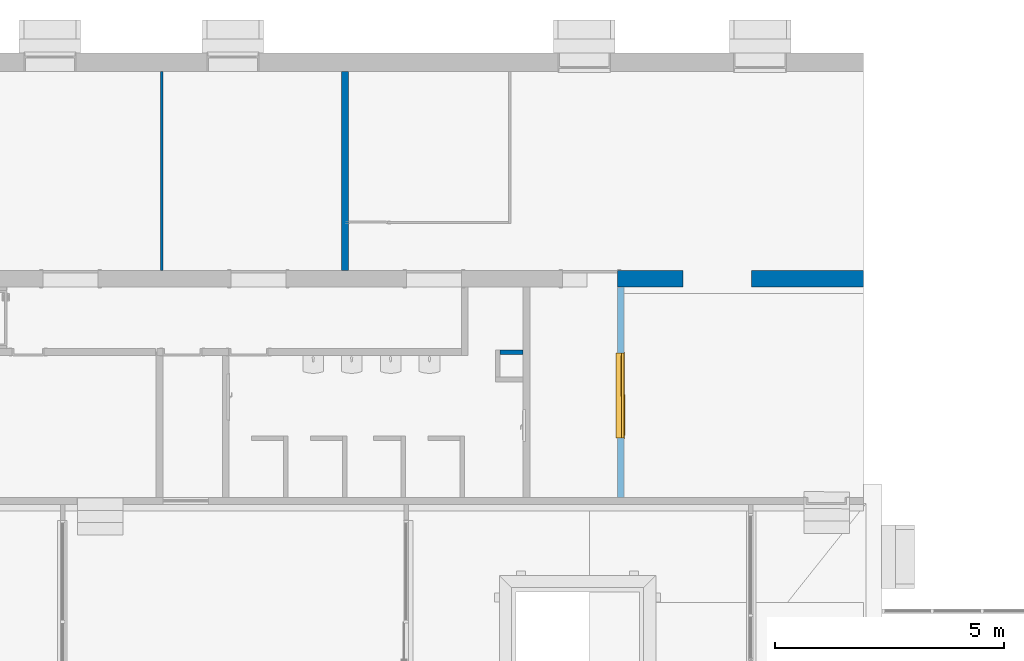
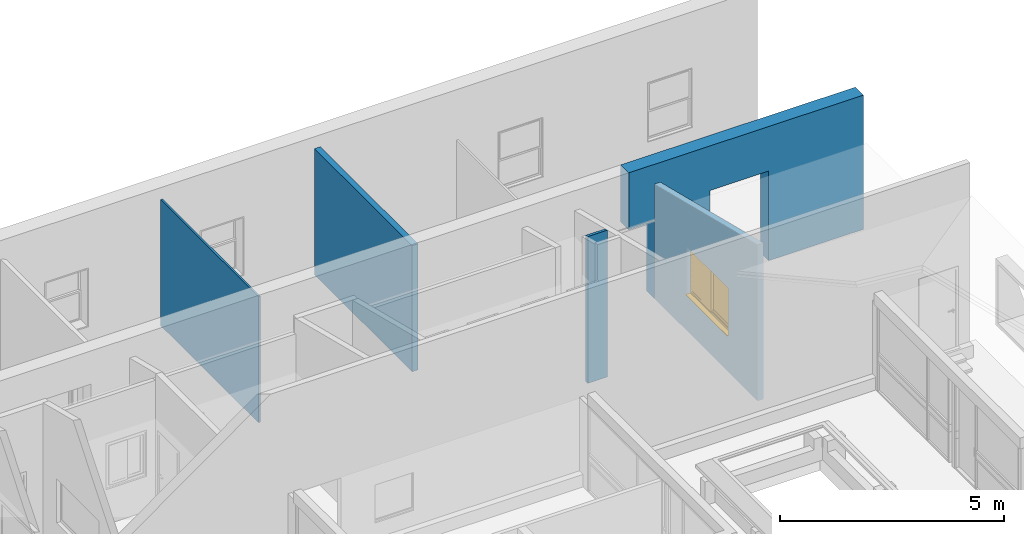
# One storey, part 146 of 153: 4 walls, 1 window, 4 openings, plus 1 element that does not belong to this part.
"""IFC4 building model written with IfcOpenShell, lengths in metres."""

from ifc_helpers import new_model, entity, si_unit, converted_unit, derived_unit, direction, frame, origin, place, context, subcontext, project, spatial, indexed_curve, outline, extrude, polygons, source, transform, mapped, material, constituent, constituent_set, type_object, type_shapes, element, fill, save


model = new_model("IFC4")

# Units and contexts
model_context = context("Model", 3, precision=1e-05, world=origin(), true_north=direction((6.123031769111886e-17, 1.0)))
body_context = subcontext(model_context, "Body", "Model", "MODEL_VIEW")
ifc_project = project(units=[si_unit("LENGTHUNIT", "METRE"), si_unit("AREAUNIT", "SQUARE_METRE"), si_unit("VOLUMEUNIT", "CUBIC_METRE"), converted_unit("PLANEANGLEUNIT", "DEGREE", entity("IfcRatioMeasure", 0.017453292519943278), si_unit("PLANEANGLEUNIT", "RADIAN"), dimensions=[0, 0, 0, 0, 0, 0, 0]), si_unit("MASSUNIT", "GRAM", prefix="KILO"), derived_unit("MASSDENSITYUNIT", [(si_unit("MASSUNIT", "GRAM", prefix="KILO"), 1), (si_unit("LENGTHUNIT", "METRE"), -3)]), derived_unit("MOMENTOFINERTIAUNIT", [(si_unit("LENGTHUNIT", "METRE"), 4)]), si_unit("TIMEUNIT", "SECOND"), si_unit("FREQUENCYUNIT", "HERTZ"), si_unit("THERMODYNAMICTEMPERATUREUNIT", "DEGREE_CELSIUS"), derived_unit("THERMALTRANSMITTANCEUNIT", [(si_unit("MASSUNIT", "GRAM", prefix="KILO"), 1), (si_unit("THERMODYNAMICTEMPERATUREUNIT", "KELVIN"), -1), (si_unit("TIMEUNIT", "SECOND"), -3)]), derived_unit("VOLUMETRICFLOWRATEUNIT", [(si_unit("LENGTHUNIT", "METRE"), 3), (si_unit("TIMEUNIT", "SECOND"), -1)]), derived_unit("MASSFLOWRATEUNIT", [(si_unit("MASSUNIT", "GRAM", prefix="KILO"), 1), (si_unit("TIMEUNIT", "SECOND"), -1)]), derived_unit("ROTATIONALFREQUENCYUNIT", [(si_unit("TIMEUNIT", "SECOND"), -1)]), si_unit("ELECTRICCURRENTUNIT", "AMPERE"), si_unit("ELECTRICVOLTAGEUNIT", "VOLT"), si_unit("POWERUNIT", "WATT"), si_unit("FORCEUNIT", "NEWTON", prefix="KILO"), si_unit("ILLUMINANCEUNIT", "LUX"), si_unit("LUMINOUSFLUXUNIT", "LUMEN"), si_unit("LUMINOUSINTENSITYUNIT", "CANDELA"), derived_unit("USERDEFINED", [(si_unit("MASSUNIT", "GRAM", prefix="KILO"), -1), (si_unit("LENGTHUNIT", "METRE"), -2), (si_unit("TIMEUNIT", "SECOND"), 3), (si_unit("LUMINOUSFLUXUNIT", "LUMEN"), 1)]), derived_unit("SOUNDPOWERUNIT", [(si_unit("MASSUNIT", "GRAM", prefix="KILO"), 1), (si_unit("LENGTHUNIT", "METRE"), 2), (si_unit("TIMEUNIT", "SECOND"), -3)]), derived_unit("SOUNDPRESSUREUNIT", [(si_unit("MASSUNIT", "GRAM", prefix="KILO"), 1), (si_unit("LENGTHUNIT", "METRE"), -1), (si_unit("TIMEUNIT", "SECOND"), -2)]), derived_unit("LINEARVELOCITYUNIT", [(si_unit("LENGTHUNIT", "METRE"), 1), (si_unit("TIMEUNIT", "SECOND"), -1)]), si_unit("PRESSUREUNIT", "PASCAL"), derived_unit("USERDEFINED", [(si_unit("LENGTHUNIT", "METRE"), -2), (si_unit("MASSUNIT", "GRAM", prefix="KILO"), 1), (si_unit("TIMEUNIT", "SECOND"), -2)]), derived_unit("LINEARFORCEUNIT", [(si_unit("MASSUNIT", "GRAM", prefix="KILO"), 1), (si_unit("LENGTHUNIT", "METRE"), 1), (si_unit("TIMEUNIT", "SECOND"), -2), (si_unit("LENGTHUNIT", "METRE"), -1)]), derived_unit("PLANARFORCEUNIT", [(si_unit("MASSUNIT", "GRAM", prefix="KILO"), 1), (si_unit("LENGTHUNIT", "METRE"), 1), (si_unit("TIMEUNIT", "SECOND"), -2), (si_unit("LENGTHUNIT", "METRE"), -2)])], contexts=[model_context])

# Site, building, storey
site_placement = place(None, origin())
site = spatial("IfcSite", under=ifc_project, at=site_placement, Name="Superficie", CompositionType="ELEMENT")
building_placement = place(site_placement, origin())
building = spatial("IfcBuilding", under=site, at=building_placement, CompositionType="ELEMENT")
storey_placement = place(building_placement, frame((0.0, 0.0, 3.5999999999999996)))
storey = spatial("IfcBuildingStorey", under=building, at=storey_placement, Name="Nivel 1", CompositionType="ELEMENT", Elevation=3.5999999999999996)

# Wall
ifc_material_1 = material(Name="Muro por defecto", Category="Varios")
wall_type_1 = type_object("IfcWallType", Name="Muro básico:Por defecto - 10 cm", PredefinedType="STANDARD")
wall_1_placement = place(storey_placement, frame((12.651001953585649, 8.95082928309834, 0.0)))
element("IfcWall", 1, at=wall_1_placement, inside=storey, type_object=wall_type_1, material=ifc_material_1, Name="Muro básico:Por defecto - 10 cm", ObjectType="Muro básico:Por defecto - 10 cm", PredefinedType="NOTDEFINED", context=body_context, shape_type="Tessellation", body=[
    polygons([(3.5796236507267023e-16, -0.050000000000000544, -5.414335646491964e-16), (0.5000000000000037, -0.050000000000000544, -5.414335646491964e-16), (0.5000000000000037, -0.050000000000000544, 3.9939708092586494), (3.5796236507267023e-16, -0.050000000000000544, 3.9939708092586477), (-2.9933446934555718e-18, 0.04999999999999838, -5.414335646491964e-16), (-2.9933446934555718e-18, 0.04999999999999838, 3.9691774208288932), (0.5000000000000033, 0.04999999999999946, 3.9691774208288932), (0.5000000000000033, 0.04999999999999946, -5.414335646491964e-16)], [[[1, 2, 3, 4]], [[5, 6, 7, 8]], [[2, 1, 5, 8]], [[1, 4, 6, 5]], [[3, 2, 8, 7]], [[4, 3, 7, 6]]], closed=True),
])

# Wall, opening
wall_type_2 = type_object("IfcWallType", Name="Muro básico:Por defecto - 15 cm 2", PredefinedType="STANDARD")
wall_2_placement = place(storey_placement, frame((9.261799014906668, 10.730829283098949, 0.4200000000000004), z_axis=(0.0, 0.0, 1.0), x_axis=(0.0, 1.0, 0.0)))
wall_2 = element("IfcWall", 2, at=wall_2_placement, inside=storey, type_object=wall_type_2, material=ifc_material_1, Name="Muro básico:Por defecto - 15 cm 2", ObjectType="Muro básico:Por defecto - 15 cm 2", PredefinedType="NOTDEFINED", context=body_context, shape_type="Tessellation", body=[
    polygons([(5.84748249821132e-14, -0.07499999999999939, -5.414335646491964e-16), (4.35499999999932, -0.0750000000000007, -5.414335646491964e-16), (4.35499999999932, -0.0750000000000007, 3.43), (1.949160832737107e-14, -0.07499999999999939, 3.43), (5.4143356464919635e-14, 0.07500000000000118, -5.414335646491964e-16), (5.84748249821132e-14, 0.07500000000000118, 3.43), (4.354999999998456, 0.07499999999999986, 3.43), (4.354999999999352, 0.07499999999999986, -5.414335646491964e-16)], [[[1, 2, 3, 4]], [[5, 6, 7, 8]], [[1, 4, 6, 5]], [[3, 2, 8, 7]], [[4, 3, 7, 6]], [[2, 1, 5, 8]]], closed=True),
])
opening_1_placement = place(wall_2_placement, origin())
element("IfcOpeningElement", 3, at=opening_1_placement, cuts=wall_2, Name="Muro básico:Por defecto - 15 cm 2", PredefinedType="OPENING", context=body_context, shape_type="SweptSolid", body=[
    extrude(outline(indexed_curve([(-0.02499999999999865, -1.0499999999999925), (0.025000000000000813, -1.0499999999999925), (0.025000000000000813, 1.049999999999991), (-0.02499999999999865, 1.049999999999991), (-0.02499999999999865, -1.0499999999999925)], self_intersect=False)), frame((1.0499999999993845, -0.924999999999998, 1.149999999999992), z_axis=(0.0, 1.0, 0.0), x_axis=(-1.0, 0.0, 0.0)), (0.0, 0.0, 1.0), 0.8500000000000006),
])

# Wall, opening, window
wall_3_placement = place(storey_placement, frame((15.286001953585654, 10.370829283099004, 0.5199999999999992), z_axis=(0.0, 0.0, 1.0), x_axis=(0.0, -1.0, 0.0)))
wall_3 = element("IfcWall", 4, at=wall_3_placement, inside=storey, type_object=wall_type_2, material=ifc_material_1, Name="Muro básico:Por defecto - 15 cm 2", ObjectType="Muro básico:Por defecto - 15 cm 2", PredefinedType="NOTDEFINED", context=body_context, shape_type="Tessellation", body=[
    polygons([(3.2950000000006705, -0.07499999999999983, 0.9800000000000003), (1.445000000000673, -0.07500000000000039, 0.9800000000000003), (1.445000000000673, -0.07500000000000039, 2.2800000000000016), (3.2950000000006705, -0.07499999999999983, 2.2800000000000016), (6.497202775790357e-15, -0.07500000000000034, 5.414335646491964e-16), (4.595000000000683, -0.07499999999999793, 5.414335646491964e-16), (4.595000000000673, -0.07499999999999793, 4.248764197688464), (2.1657342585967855e-15, -0.07500000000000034, 3.109507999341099), (2.1657342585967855e-15, -0.07500000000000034, 2.099999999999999), (3.2950000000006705, 0.07500000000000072, 0.9800000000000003), (3.2950000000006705, 0.07500000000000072, 2.2800000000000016), (1.445000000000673, 0.07500000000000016, 2.2800000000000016), (1.445000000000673, 0.07500000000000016, 0.9800000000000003), (1.0828671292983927e-14, 0.0750000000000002, 5.414335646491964e-16), (1.0828671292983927e-14, 0.0750000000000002, 3.1095079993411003), (4.595000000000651, 0.07500000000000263, 4.248764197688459), (4.595000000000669, 0.07500000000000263, 5.414335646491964e-16)], [[[5, 6, 7, 8, 9], [1, 2, 3, 4]], [[14, 15, 16, 17], [10, 11, 12, 13]], [[6, 17, 16, 7]], [[11, 10, 1, 4]], [[12, 11, 4, 3]], [[13, 12, 3, 2]], [[10, 13, 2, 1]], [[5, 9, 8, 15, 14]], [[8, 7, 16, 15]], [[6, 5, 14, 17]]], closed=True),
])
opening_2_placement = place(wall_3_placement, frame((3.295000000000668, 0.07499999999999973, 0.9800000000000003)))
opening_2 = element("IfcOpeningElement", 5, at=opening_2_placement, cuts=wall_3, Name="Ventana corredera de 2 hojas 2:1850 x 1300mm 2:1", PredefinedType="OPENING", context=body_context, shape_type="SweptSolid", body=[
    extrude(outline(indexed_curve([(0.0, -1.052679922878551e-33), (1.3000000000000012, -1.052679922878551e-33), (1.3000000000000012, 1.849999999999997), (0.0, 1.849999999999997), (0.0, -1.052679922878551e-33)], self_intersect=False)), frame((0.0, 0.0, 0.0), z_axis=(0.0, -1.0, 0.0), x_axis=(0.0, 0.0, 1.0)), (0.0, 0.0, 1.0), 0.14999999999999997),
])
ifc_material_2 = material(Name="Madera - Castaño", Category="Madera")
ifc_constituent_1 = constituent(ifc_material_2, Name="Madera - Castaño", Category="Madera")
ifc_material_3 = material(Name="Vidrio", Category="Vidrio")
ifc_constituent_2 = constituent(ifc_material_3, Name="Vidrio", Category="Vidrio")
ifc_constituent_set_1 = constituent_set(constituents=[ifc_constituent_1, ifc_constituent_2], Name="MaterialConstituentSet")
ifc_constituent_3 = constituent(ifc_material_2, Name="Alféizar/dintel", Category="Madera")
ifc_constituent_4 = constituent(ifc_material_2, Name="Marco/montante", Category="Madera")
ifc_constituent_5 = constituent(ifc_material_3, Name="Cristal", Category="Vidrio")
ifc_constituent_6 = constituent(ifc_material_2, Name="Cubrejuntas", Category="Madera")
ifc_constituent_set_2 = constituent_set(constituents=[ifc_constituent_3, ifc_constituent_4, ifc_constituent_5, ifc_constituent_6], Name="MaterialConstituentSet")
window_type = type_object("IfcWindowType", Name="Ventana corredera de 2 hojas 2:1850 x 1300mm 2", PartitioningType="NOTDEFINED", PredefinedType="WINDOW", material=ifc_constituent_set_2)
shared_shape = source(origin(), body_context, "Body", "Tessellation", [
    polygons([(1.8499999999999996, 0.17999999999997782, 0.0199999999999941), (1.8499999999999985, 0.05999999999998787, 0.0199999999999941), (1.8499999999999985, 0.0599999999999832, -7.986145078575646e-15), (1.8499999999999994, 0.14999999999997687, -7.986145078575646e-15), (1.8499999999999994, 0.14999999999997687, 0.009999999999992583), (1.8499999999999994, 0.15999999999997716, 0.009999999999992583), (1.8499999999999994, 0.15999999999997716, -7.986145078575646e-15), (1.8499999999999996, 0.17999999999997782, -7.986145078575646e-15), (0.0, 0.17999999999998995, 0.0199999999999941), (0.0, 0.17999999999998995, -7.986145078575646e-15), (0.0, 0.1599999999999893, -7.986145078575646e-15), (0.0, 0.1599999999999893, 0.009999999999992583), (0.0, 0.14999999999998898, 0.009999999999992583), (0.0, 0.14999999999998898, -7.986145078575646e-15), (-6.767919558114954e-16, 0.0599999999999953, -7.986145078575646e-15), (-6.767919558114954e-16, 0.05999999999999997, 0.0199999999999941)], [[[1, 2, 3, 4, 5, 6, 7, 8]], [[9, 10, 11, 12, 13, 14, 15, 16]], [[8, 10, 9, 1]], [[7, 11, 10, 8]], [[6, 12, 11, 7]], [[5, 13, 12, 6]], [[4, 14, 13, 5]], [[3, 15, 14, 4]], [[2, 16, 15, 3]], [[1, 9, 16, 2]]], closed=True),
    polygons([(1.849999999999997, 0.05999999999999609, 1.2999999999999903), (1.849999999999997, 8.459899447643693e-18, 1.2999999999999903), (1.849999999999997, 8.459899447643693e-18, -3.2486013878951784e-15), (1.849999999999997, 0.060000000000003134, -3.2486013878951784e-15), (-6.767919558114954e-16, 8.459899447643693e-18, 1.2999999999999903), (-6.767919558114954e-16, 8.459899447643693e-18, -3.2486013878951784e-15), (0.060001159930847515, -1.8611778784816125e-16, 1.2399988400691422), (1.7899988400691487, -3.91693344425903e-15, 1.2399988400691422), (1.7899988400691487, -3.91693344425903e-15, 0.08000115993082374), (0.060001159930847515, -1.8611778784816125e-16, 0.08000115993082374), (-6.767919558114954e-16, 0.060000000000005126, -3.2486013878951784e-15), (-6.767919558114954e-16, 0.060000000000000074, 1.2999999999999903), (1.7899988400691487, 0.059999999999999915, 1.2399988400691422), (0.060001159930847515, 0.059999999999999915, 1.2399988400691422), (0.060001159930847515, 0.059999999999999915, 0.08000115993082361), (1.7899988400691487, 0.059999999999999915, 0.08000115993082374), (1.7899988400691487, 0.04999999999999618, 1.2399988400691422), (1.7899988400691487, 0.04999999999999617, 0.08000115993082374), (0.060001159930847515, 0.049999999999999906, 0.08000115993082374), (0.060001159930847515, 0.049999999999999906, 1.2399988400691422), (1.814998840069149, 0.04999999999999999, 1.2649988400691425), (0.035001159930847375, 0.04999999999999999, 1.264998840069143), (0.035001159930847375, 0.04999999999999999, 0.05500115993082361), (1.8149988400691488, 0.04999999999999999, 0.05500115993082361), (1.814998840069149, 0.009999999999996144, 1.264998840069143), (1.814998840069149, 0.009999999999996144, 0.055001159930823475), (0.03500115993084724, 0.009999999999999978, 0.055001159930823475), (0.03500115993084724, 0.009999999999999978, 1.264998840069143), (1.7899988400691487, 0.00999999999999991, 1.2399988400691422), (0.060001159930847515, 0.00999999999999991, 1.2399988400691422), (0.060001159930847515, 0.00999999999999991, 0.08000115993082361), (1.7899988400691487, 0.00999999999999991, 0.08000115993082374)], [[[1, 2, 3, 4]], [[3, 2, 5, 6], [7, 8, 9, 10]], [[4, 3, 6, 11]], [[11, 12, 1, 4], [13, 14, 15, 16]], [[17, 13, 16, 18]], [[18, 16, 15, 19]], [[21, 22, 23, 24], [20, 17, 18, 19]], [[25, 21, 24, 26]], [[26, 24, 23, 27]], [[28, 25, 26, 27], [29, 30, 31, 32]], [[8, 29, 32, 9]], [[9, 32, 31, 10]], [[14, 20, 19, 15]], [[22, 28, 27, 23]], [[30, 7, 10, 31]], [[5, 12, 11, 6]], [[12, 5, 2, 1]], [[20, 14, 13, 17]], [[28, 22, 21, 25]], [[7, 30, 29, 8]]], closed=True),
    polygons([(0.9174999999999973, 0.017000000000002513, 0.12000115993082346), (0.9174999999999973, -0.006999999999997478, 0.12000115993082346), (0.10000115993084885, -0.006999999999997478, 0.12000115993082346), (0.10000115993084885, 0.017000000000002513, 0.12000115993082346), (0.9174999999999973, 0.017000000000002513, 1.1999988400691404), (0.9174999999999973, -0.006999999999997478, 1.1999988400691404), (0.10000115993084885, -0.006999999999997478, 1.1999988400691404), (0.10000115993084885, 0.017000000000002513, 1.1999988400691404)], [[[1, 2, 3, 4]], [[5, 6, 2, 1]], [[6, 7, 3, 2]], [[7, 8, 4, 3]], [[8, 5, 1, 4]], [[5, 8, 7, 6]]], closed=True),
    polygons([(1.749998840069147, 0.06700000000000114, 1.1999988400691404), (1.749998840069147, 0.04300000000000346, 1.1999988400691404), (1.749998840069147, 0.04300000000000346, 0.12000115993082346), (1.749998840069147, 0.06700000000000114, 0.12000115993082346), (0.9324999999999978, 0.04300000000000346, 1.1999988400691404), (0.9324999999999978, 0.04300000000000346, 0.12000115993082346), (0.9324999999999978, 0.06700000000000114, 1.1999988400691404), (0.9324999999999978, 0.06700000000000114, 0.12000115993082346)], [[[1, 2, 3, 4]], [[2, 5, 6, 3]], [[5, 7, 8, 6]], [[7, 1, 4, 8]], [[1, 7, 5, 2]], [[4, 3, 6, 8]]], closed=True),
    polygons([(1.7349988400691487, 0.0750000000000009, 0.13500115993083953), (1.7349988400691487, 0.0750000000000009, 1.1849988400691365), (0.9474999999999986, 0.07500000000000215, 1.1849988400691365), (0.9474999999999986, 0.07500000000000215, 0.1350011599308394), (0.9024999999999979, 0.0750000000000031, 1.2499988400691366), (1.799998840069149, 0.07500000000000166, 1.2499988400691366), (1.799998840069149, 0.07500000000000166, 0.07000115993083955), (0.9024999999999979, 0.0750000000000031, 0.07000115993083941), (1.799998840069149, 0.060000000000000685, 1.2499988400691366), (1.799998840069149, 0.060000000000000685, 0.07000115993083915), (0.9024999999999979, 0.06000000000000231, 0.07000115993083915), (0.9024999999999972, 0.05000000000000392, 1.2499988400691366), (0.9024999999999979, 0.050000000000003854, 1.2299988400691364), (0.9024999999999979, 0.060000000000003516, 1.2299988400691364), (0.9024999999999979, 0.06000000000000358, 1.2499988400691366), (0.9024999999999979, 0.06000000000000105, 0.09000115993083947), (0.9024999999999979, 0.050000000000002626, 0.09000115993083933), (0.9024999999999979, 0.05000000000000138, 0.07000115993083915), (0.9024999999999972, 0.027000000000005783, 0.07000115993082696), (0.9024999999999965, 0.027000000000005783, 1.2499988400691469), (1.7349988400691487, 0.06700000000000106, 0.1350011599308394), (1.7349988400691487, 0.06700000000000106, 1.1849988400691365), (0.9474999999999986, 0.06700000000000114, 1.1849988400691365), (0.9474999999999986, 0.06700000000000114, 0.1350011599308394), (1.7799988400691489, 0.060000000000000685, 1.2299988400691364), (1.7799988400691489, 0.05999999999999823, 0.09000115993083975), (1.7799988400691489, 0.050000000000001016, 0.09000115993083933), (1.7999988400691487, 0.050000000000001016, 1.2499988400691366), (1.799998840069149, 0.04999999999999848, 0.07000115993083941), (1.7799988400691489, 0.050000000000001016, 1.2299988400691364), (1.7999988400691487, 0.03500000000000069, 0.07000115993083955), (0.9249999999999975, 0.035000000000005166, 0.07000115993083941), (0.9249999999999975, 0.027000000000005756, 0.07000115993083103), (0.9249999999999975, 0.027000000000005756, 1.2499988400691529), (0.9249999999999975, 0.035000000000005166, 1.249998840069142), (1.7349988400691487, 0.03500000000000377, 1.1849988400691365), (1.7349988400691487, 0.03500000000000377, 0.1350011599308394), (0.9474999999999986, 0.03500000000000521, 0.13500115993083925), (0.9474999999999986, 0.03500000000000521, 1.1849988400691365), (1.7999988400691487, 0.03500000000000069, 1.2499988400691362), (1.7349988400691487, 0.0430000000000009, 1.1849988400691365), (1.7349988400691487, 0.0430000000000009, 0.1350011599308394), (0.9474999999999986, 0.04300000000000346, 0.13500115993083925), (0.9474999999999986, 0.04300000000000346, 1.1849988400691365), (1.7549988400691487, 0.04300000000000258, 1.2049988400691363), (1.7549988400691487, 0.04300000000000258, 0.11500115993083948), (0.9274999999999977, 0.04300000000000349, 0.11500115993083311), (0.9274999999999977, 0.04300000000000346, 1.2049988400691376), (1.7549988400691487, 0.06700000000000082, 1.2049988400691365), (1.7549988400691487, 0.06700000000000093, 0.1150011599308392), (0.9274999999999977, 0.06700000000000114, 0.11500115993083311), (0.9274999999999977, 0.06700000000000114, 1.2049988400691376)], [[[5, 6, 7, 8], [1, 2, 3, 4]], [[9, 10, 7, 6]], [[10, 11, 8, 7]], [[12, 13, 14, 15, 5, 8, 11, 16, 17, 18, 19, 20]], [[2, 1, 21, 22]], [[4, 3, 23, 24]], [[21, 1, 4, 24]], [[15, 14, 25, 26, 16, 11, 10, 9]], [[27, 17, 16, 26]], [[13, 12, 28, 29, 18, 17, 27, 30]], [[19, 18, 29, 31, 32, 33]], [[20, 19, 33, 34]], [[34, 33, 32, 35]], [[31, 40, 35, 32], [36, 37, 38, 39]], [[37, 36, 41, 42]], [[37, 42, 43, 38]], [[39, 38, 43, 44]], [[40, 31, 29, 28]], [[45, 46, 47, 48], [42, 41, 44, 43]], [[49, 50, 46, 45]], [[46, 50, 51, 47]], [[52, 48, 47, 51]], [[50, 49, 52, 51], [22, 21, 24, 23]], [[30, 27, 26, 25]], [[12, 20, 34, 35, 40, 28]], [[14, 13, 30, 25]], [[5, 15, 9, 6]], [[2, 22, 23, 3]], [[49, 45, 48, 52]], [[41, 36, 39, 44]]], closed=True),
    polygons([(0.9474999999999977, -0.014999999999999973, 0.07000115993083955), (0.9474999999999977, 2.537969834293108e-17, 0.07000115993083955), (0.9474999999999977, -4.2299497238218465e-17, 0.09000115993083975), (0.9474999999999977, 0.00999999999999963, 0.09000115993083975), (0.9474999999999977, 0.009999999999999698, 0.07000115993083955), (0.9474999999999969, 0.032999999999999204, 0.07000115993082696), (0.9474999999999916, 0.032999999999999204, 1.2499988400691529), (0.9474999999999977, 0.00999999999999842, 1.2499988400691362), (0.9474999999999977, 0.00999999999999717, 1.2299988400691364), (0.9474999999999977, -1.2605250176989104e-15, 1.2299988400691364), (0.9474999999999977, -2.512590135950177e-15, 1.2499988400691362), (0.9474999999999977, -0.015000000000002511, 1.2499988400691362), (0.05000115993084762, -0.014999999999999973, 0.07000115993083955), (0.05000115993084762, 2.537969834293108e-17, 0.07000115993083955), (0.05000115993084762, -2.512590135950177e-15, 1.2499988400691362), (0.07000115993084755, -4.2299497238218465e-17, 1.2299988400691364), (0.07000115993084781, -4.2299497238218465e-17, 0.09000115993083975), (0.07000115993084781, 0.00999999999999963, 0.09000115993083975), (0.07000115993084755, 0.00999999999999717, 1.2299988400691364), (0.05000115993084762, 0.009999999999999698, 1.2499988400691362), (0.05000115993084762, 0.009999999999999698, 0.07000115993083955), (0.050001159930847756, 0.025000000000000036, 0.07000115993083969), (0.9249999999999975, 0.025000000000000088, 0.07000115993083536), (0.9249999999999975, 0.032999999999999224, 0.07000115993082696), (0.9249999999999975, 0.032999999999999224, 1.2499988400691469), (0.05000115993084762, -0.014999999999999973, 1.2499988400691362), (0.1150011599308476, -0.015000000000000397, 0.13500115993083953), (0.1150011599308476, -0.015000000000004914, 1.1849988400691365), (0.9024999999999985, -0.015000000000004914, 1.1849988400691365), (0.9024999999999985, -0.015000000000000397, 0.13500115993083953), (0.050001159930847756, 0.024999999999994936, 1.2499988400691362), (0.9249999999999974, 0.024999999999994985, 1.2499988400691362), (0.1150011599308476, 0.024999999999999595, 1.1849988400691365), (0.11500115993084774, 0.024999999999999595, 0.1350011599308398), (0.9024999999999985, 0.024999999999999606, 0.13500115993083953), (0.9024999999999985, 0.024999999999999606, 1.184998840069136), (0.1150011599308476, 0.016999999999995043, 1.1849988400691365), (0.1150011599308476, 0.016999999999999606, 0.13500115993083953), (0.9024999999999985, 0.016999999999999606, 0.13500115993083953), (0.9024999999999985, 0.016999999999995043, 1.1849988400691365), (0.1150011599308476, -0.007000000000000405, 0.13500115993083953), (0.1150011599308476, -0.007000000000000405, 1.1849988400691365), (0.9024999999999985, -0.007000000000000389, 1.1849988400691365), (0.9024999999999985, -0.007000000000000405, 0.13500115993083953), (0.09500115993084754, -0.00700000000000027, 0.1150011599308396), (0.09500115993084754, -0.007000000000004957, 1.2049988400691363), (0.9224999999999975, -0.007000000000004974, 1.2049988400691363), (0.9224999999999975, -0.00700000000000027, 0.11500115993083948), (0.09500115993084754, 0.01699999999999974, 0.1150011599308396), (0.09500115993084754, 0.01699999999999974, 1.2049988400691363), (0.9224999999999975, 0.01699999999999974, 0.11500115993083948), (0.9224999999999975, 0.01699999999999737, 1.2049988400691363)], [[[1, 2, 3, 4, 5, 6, 7, 8, 9, 10, 11, 12]], [[2, 1, 13, 14]], [[3, 2, 14, 15, 11, 10, 16, 17]], [[4, 3, 17, 18]], [[5, 4, 18, 19, 9, 8, 20, 21]], [[6, 5, 21, 22, 23, 24]], [[7, 6, 24, 25]], [[13, 1, 12, 26], [27, 28, 29, 30]], [[22, 31, 32, 23], [33, 34, 35, 36]], [[31, 22, 21, 20]], [[25, 24, 23, 32]], [[34, 33, 37, 38]], [[34, 38, 39, 35]], [[39, 40, 36, 35]], [[19, 18, 17, 16]], [[15, 14, 13, 26]], [[28, 27, 41, 42]], [[30, 29, 43, 44]], [[41, 27, 30, 44]], [[45, 46, 47, 48], [42, 41, 44, 43]], [[46, 45, 49, 50]], [[51, 48, 47, 52]], [[49, 45, 48, 51]], [[50, 49, 51, 52], [38, 37, 40, 39]], [[20, 8, 7, 25, 32, 31]], [[9, 19, 16, 10]], [[11, 15, 26, 12]], [[28, 42, 43, 29]], [[46, 50, 52, 47]], [[37, 33, 36, 40]]], closed=True),
    polygons([(1.8399999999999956, -0.004999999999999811, 1.2899999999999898), (1.8399999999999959, -2.1149748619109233e-15, 1.2899999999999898), (1.8399999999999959, -2.1149748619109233e-15, 0.010000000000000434), (1.8399999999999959, -0.004999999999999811, 0.01000000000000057), (1.8749999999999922, -2.1149748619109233e-15, 1.3249999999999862), (1.8749999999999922, -2.1149748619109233e-15, -0.024999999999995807), (-0.024999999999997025, 3.908473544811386e-15, -0.024999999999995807), (-0.024999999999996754, 3.908473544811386e-15, 1.3249999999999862), (0.009999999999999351, 3.798494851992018e-15, 1.2899999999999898), (0.009999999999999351, 3.806954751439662e-15, 0.010000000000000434), (0.009999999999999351, -0.004999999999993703, 0.01000000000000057), (0.009999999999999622, -0.004999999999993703, 1.2899999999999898), (-0.024999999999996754, -0.004999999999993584, 1.3249999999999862), (-0.024999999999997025, -0.004999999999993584, -0.024999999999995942), (1.8749999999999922, -0.004999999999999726, -0.024999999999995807), (1.8749999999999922, -0.004999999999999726, 1.3249999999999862)], [[[1, 2, 3, 4]], [[5, 6, 7, 8], [9, 10, 3, 2]], [[4, 3, 10, 11]], [[13, 14, 15, 16], [1, 4, 11, 12]], [[5, 16, 15, 6]], [[6, 15, 14, 7]], [[11, 10, 9, 12]], [[7, 14, 13, 8]], [[12, 9, 2, 1]], [[8, 13, 16, 5]]], closed=True),
])
type_shapes(window_type, [shared_shape])
window_placement = place(opening_2_placement, frame((0.0, 0.0, 0.0), z_axis=(0.0, 0.0, 1.0), x_axis=(-1.0, 0.0, 0.0)))
window = element("IfcWindow", 6, at=window_placement, inside=storey, type_object=window_type, material=ifc_constituent_set_1, Name="Ventana corredera de 2 hojas 2:1850 x 1300mm 2", ObjectType="Ventana corredera de 2 hojas 2:1850 x 1300mm 2", OverallHeight=1.3000000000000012, OverallWidth=1.8499999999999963, PartitioningType="NOTDEFINED", PredefinedType="WINDOW", context=body_context, shape_type="MappedRepresentation", body=[
    mapped(shared_shape, transform((0.0, 0.0, 0.0), scale=1.0)),
])
fill(opening_2, window)

# Wall
wall_type_3 = type_object("IfcWallType", Name="Muro básico:Por defecto - 5 cm 2", PredefinedType="STANDARD")
wall_4_placement = place(storey_placement, frame((5.256001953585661, 15.085829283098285, 0.4200000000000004), z_axis=(0.0, 0.0, 1.0), x_axis=(0.0, -1.0, 0.0)))
element("IfcWall", 7, at=wall_4_placement, inside=storey, type_object=wall_type_3, material=ifc_material_1, Name="Muro básico:Por defecto - 5 cm 2", ObjectType="Muro básico:Por defecto - 5 cm 2", PredefinedType="NOTDEFINED", context=body_context, shape_type="Tessellation", body=[
    polygons([(0.0, -0.02500000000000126, -5.414335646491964e-16), (4.354999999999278, -0.025000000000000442, -5.414335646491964e-16), (4.3549999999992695, -0.025000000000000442, 3.43), (8.771223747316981e-13, -0.02500000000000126, 3.43), (4.1365524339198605e-13, 0.024999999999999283, -5.414335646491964e-16), (3.465174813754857e-14, 0.024999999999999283, 3.43), (4.354999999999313, 0.025000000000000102, 3.43), (4.354999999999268, 0.025000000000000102, -5.414335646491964e-16)], [[[1, 2, 3, 4]], [[5, 6, 7, 8]], [[3, 2, 8, 7]], [[2, 1, 5, 8]], [[1, 4, 6, 5]], [[4, 3, 7, 6]]], closed=True),
])

# Wall, openings
wall_type_4 = type_object("IfcWallType", Name="Muro básico:Por defecto - 36 cm 2", PredefinedType="STANDARD")
wall_5_placement = place(storey_placement, frame((14.551001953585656, 10.550829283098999, 0.5200000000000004)))
wall_5 = element("IfcWall", 8, at=wall_5_placement, inside=storey, type_object=wall_type_4, material=ifc_material_1, Name="Muro básico:Por defecto - 36 cm 2", ObjectType="Muro básico:Por defecto - 36 cm 2", PredefinedType="NOTDEFINED", context=body_context, shape_type="Tessellation", body=[
    polygons([(6.035797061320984, -0.18000000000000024, 3.65), (7.988948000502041e-16, -0.18000000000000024, 3.65), (7.988948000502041e-16, -0.18000000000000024, 2.099999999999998), (0.659999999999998, -0.18000000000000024, 2.099999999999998), (0.659999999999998, -0.18000000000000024, -5.414335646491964e-16), (0.8099999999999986, -0.18000000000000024, -5.414335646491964e-16), (2.0923728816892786, -0.18000000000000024, -5.414335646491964e-16), (2.0923728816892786, -0.18000000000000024, 2.4383999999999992), (3.594055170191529, -0.18000000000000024, 2.4383999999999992), (3.594055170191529, -0.18000000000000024, -5.414335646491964e-16), (6.035797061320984, -0.18000000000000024, -5.414335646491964e-16), (3.880059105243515e-15, 0.18000000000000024, 3.65), (6.0357970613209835, 0.18000000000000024, 3.65), (6.0357970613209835, 0.18000000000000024, -5.414335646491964e-16), (3.594055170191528, 0.18000000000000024, -5.414335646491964e-16), (3.594055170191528, 0.18000000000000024, 2.4383999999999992), (2.0923728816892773, 0.18000000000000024, 2.4383999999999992), (2.0923728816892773, 0.18000000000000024, -5.414335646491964e-16), (0.6599999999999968, 0.18000000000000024, -5.414335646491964e-16), (0.6599999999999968, 0.18000000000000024, 2.099999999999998), (3.880059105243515e-15, 0.18000000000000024, 2.099999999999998)], [[[1, 2, 3, 4, 5, 6, 7, 8, 9, 10, 11]], [[12, 13, 14, 15, 16, 17, 18, 19, 20, 21]], [[18, 7, 6, 5, 19]], [[2, 1, 13, 12]], [[2, 12, 21, 3]], [[1, 11, 14, 13]], [[20, 4, 3, 21]], [[4, 20, 19, 5]], [[8, 17, 16, 9]], [[17, 8, 7, 18]], [[9, 16, 15, 10]], [[14, 11, 10, 15]]], closed=True),
])
opening_3_placement = place(wall_5_placement, origin())
element("IfcOpeningElement", 9, at=opening_3_placement, cuts=wall_5, Name="Muro básico:Por defecto - 36 cm 2", PredefinedType="OPENING", context=body_context, shape_type="SweptSolid", body=[
    extrude(outline(indexed_curve([(-1.2192, -0.7508411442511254), (1.2192, -0.7508411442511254), (1.2192, 0.7508411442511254), (-1.2192, 0.7508411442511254), (-1.2192, -0.7508411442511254)], self_intersect=False)), frame((2.8432140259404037, -0.18000000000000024, 1.219199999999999), z_axis=(0.0, 1.0, 0.0), x_axis=(0.0, 0.0, -1.0)), (0.0, 0.0, 1.0), 0.3600000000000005),
])
opening_4_placement = place(wall_5_placement, origin())
element("IfcOpeningElement", 10, at=opening_4_placement, cuts=wall_5, Name="Muro básico:Por defecto - 36 cm 2", PredefinedType="OPENING", context=body_context, shape_type="SweptSolid", body=[
    extrude(outline(indexed_curve([(-1.049999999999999, -0.6000000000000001), (1.0499999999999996, -0.6000000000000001), (1.0499999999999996, 0.6000000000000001), (-1.049999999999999, 0.6000000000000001), (-1.049999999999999, -0.6000000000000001)], self_intersect=False)), frame((0.05999999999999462, -1.704000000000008, 1.0499999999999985), z_axis=(0.0, 1.0, 0.0), x_axis=(0.0, 0.0, 1.0)), (0.0, 0.0, 1.0), 3.047999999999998),
])

save(model, "model.ifc")
